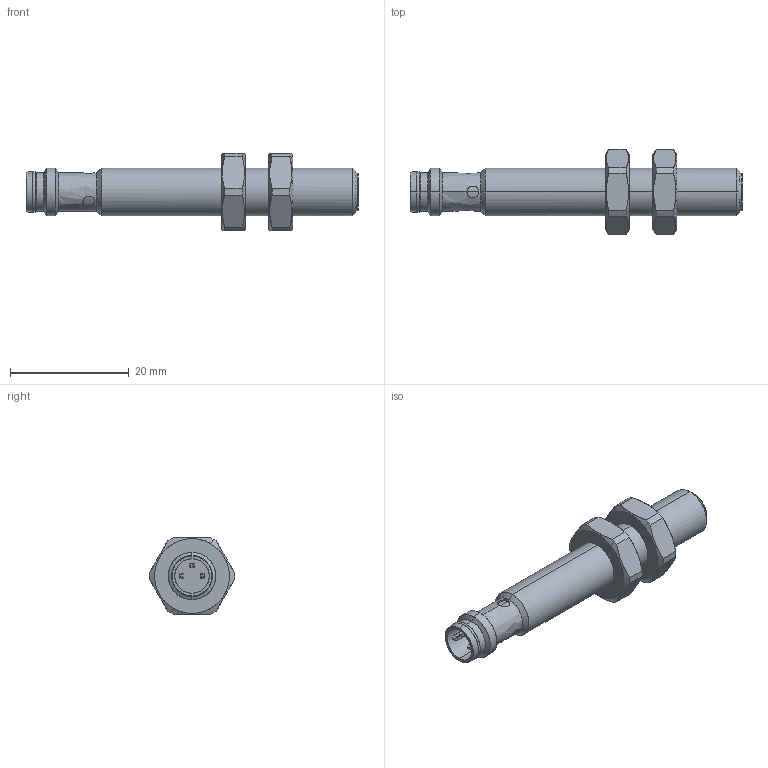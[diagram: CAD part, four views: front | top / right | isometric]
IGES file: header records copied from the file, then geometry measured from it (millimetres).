
Start section: Comment
Global section: file name: IFRM 08xxxA4_S35L.igs; native system:  By Spatial Corp.; preprocessor: XPlus GENERIC/IGES 3.0; author: Author; organization: Title; date: 20050523.131926; units: millimetre
Bounding box: 55.95 x 14.36 x 13 mm (x, y, z)
Surface area: 2488.9 mm2 (no closed solid volume)
Topology: 0 solids, 0 shells, 131 faces, 632 edges, 632 vertices
Faces by surface type: bspline 131
